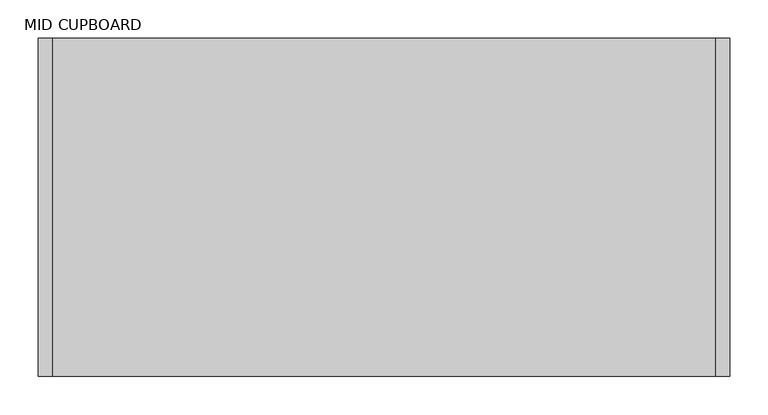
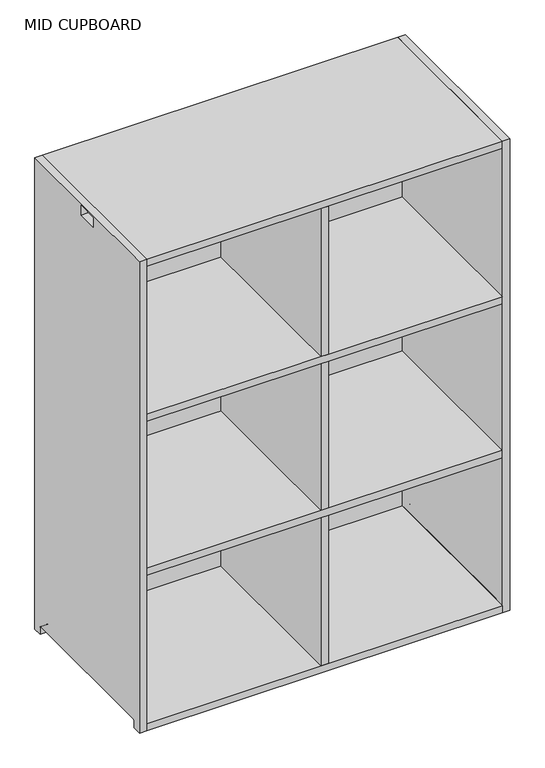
"""IFC4 building model written with IfcOpenShell, lengths in millimetres: furniture geometry, MID CUPBOARD : 900mmW_SHELVES & DIVIDER."""

from ifc_helpers import new_model, si_unit, point, frame, frame_2d, origin, place, context, project, spatial, polyline, circle_curve, trimmed, segment, composite_curve, outline, extrude, source, transform, mapped, element, save
from ifc_brep_helpers import plane_surface, revolved_surface, advanced_brep


def mid_cupboard_57cd88e8(model_context):
    return source(origin(), model_context, "Body", "SolidModel", [
        extrude(outline(composite_curve([segment(polyline([(-220.0, 1210.0), (220.0, 1210.0), (220.0, 0.0), (198.0, 0.0), (198.0, 17.0)]), True, "CONTINUOUS"), segment(trimmed(circle_curve(frame_2d((194.0, 17.0)), 4.0), [point((198.0, 17.0))], [point((194.0, 21.0))], True, "CARTESIAN"), True, "CONTINUOUS"), segment(polyline([(194.0, 21.0), (-194.0, 21.0)]), True, "CONTINUOUS"), segment(trimmed(circle_curve(frame_2d((-194.0, 17.0)), 4.0), [point((-194.0, 21.0))], [point((-198.0, 17.0))], True, "CARTESIAN"), True, "CONTINUOUS"), segment(polyline([(-198.0, 17.0), (-198.0, 0.0), (-220.0, 0.0), (-220.0, 1210.0)]), True, "CONTINUOUS")], self_intersect=False), holes=[polyline([(-26.0, 1205.0), (-26.0, 1180.0), (26.0, 1180.0), (26.0, 1205.0), (-26.0, 1205.0)])]), frame((-450.0, 0.0, 0.0), z_axis=(1.0, 0.0, 0.0), x_axis=(0.0, 1.0, 0.0)), (0.0, 0.0, 1.0), 18.0),
        advanced_brep(
        [(432.0, 220.0, 18.0), (-432.0, 220.0, 18.0), (-432.0, 197.8729833, 18.0), (-426.1019215, 197.8729833, 18.0), (-426.1019215, -197.8729833, 18.0), (-432.0, -197.8729833, 18.0), (-432.0, -220.0, 18.0), (432.0, -220.0, 18.0), (432.0, 220.0, 0.0), (432.0, -220.0, 0.0), (-432.0, -220.0, 0.0), (-432.0, -198.0, 0.0), (-426.1019215, -198.0, 0.0), (-426.1019215, 198.0, 0.0), (-432.0, 198.0, 0.0), (-432.0, 220.0, 0.0), (-432.0, 198.0, 17.0), (-432.0, -198.0, 17.0), (-426.1019215, 198.0, 17.0), (-426.1019215, -198.0, 17.0)],
        [
            (0, 1),
            (1, 2),
            (2, 3),
            (3, 4),
            (4, 5),
            (5, 6),
            (6, 7),
            (7, 0),
            (8, 9),
            (9, 10),
            (10, 11),
            (11, 12),
            (12, 13),
            (13, 14),
            (14, 15),
            (15, 8),
            (0, 8),
            (15, 1),
            (14, 16),
            (16, 2, circle_curve(frame((-432.0, 194.0, 17.0), z_axis=(1.0, 0.0, 0.0), x_axis=(0.0, 1.0, 0.0)), 4.0)),
            (10, 6),
            (5, 17, circle_curve(frame((-432.0, -194.0, 17.0), z_axis=(1.0, 0.0, 0.0), x_axis=(0.0, 1.0, 0.0)), 4.0)),
            (17, 11),
            (9, 7),
            (18, 13),
            (12, 19),
            (19, 4, circle_curve(frame((-426.1019215, -194.0, 17.0), z_axis=(-1.0, 0.0, 0.0), x_axis=(0.0, 1.0, 0.0)), 4.0)),
            (3, 18, circle_curve(frame((-426.1019215, 194.0, 17.0), z_axis=(-1.0, 0.0, 0.0), x_axis=(0.0, 1.0, 0.0)), 4.0)),
            (19, 17),
            (18, 16),
        ],
        [
            plane_surface(frame((-432.0, 220.0, 18.0), z_axis=(0.0, 0.0, 1.0), x_axis=(-1.0, 0.0, 0.0))),
            plane_surface(frame((-432.0, 220.0, 0.0), z_axis=(0.0, 0.0, -1.0), x_axis=(1.0, 0.0, 0.0))),
            plane_surface(frame((432.0, 220.0, 18.0), z_axis=(0.0, 1.0, 0.0), x_axis=(0.0, 0.0, -1.0))),
            plane_surface(frame((-432.0, 220.0, 18.0), z_axis=(-1.0, 0.0, 0.0), x_axis=(0.0, 0.0, -1.0))),
            plane_surface(frame((-432.0, -220.0, 18.0), z_axis=(0.0, -1.0, 0.0), x_axis=(0.0, 0.0, -1.0))),
            plane_surface(frame((432.0, -220.0, 18.0), z_axis=(1.0, 0.0, 0.0), x_axis=(0.0, 0.0, -1.0))),
            plane_surface(frame((-426.1019215, -190.0, 17.0), z_axis=(-1.0, 0.0, 0.0), x_axis=(0.0, 0.0, 1.0))),
            revolved_surface(polyline([(-426.1019215, -190.0, 17.0), (-432.0, -190.0, 17.0)]), (-456.0458228, -194.0, 17.0), (1.0, 0.0, 0.0)),
            plane_surface(frame((-426.1019215, -198.0, 17.0), z_axis=(0.0, 1.0, 0.0), x_axis=(-1.0, 0.0, 0.0))),
            plane_surface(frame((-426.1019215, 198.0, 0.0), z_axis=(0.0, -1.0, 0.0), x_axis=(-1.0, 0.0, 0.0))),
            revolved_surface(polyline([(-426.1019215, 198.0, 17.0), (-432.0, 198.0, 17.0)]), (-456.0458228, 194.0, 17.0), (1.0, 0.0, 0.0)),
        ],
        [
            (0, [[1, 2, 3, 4, 5, 6, 7, 8]]),
            (1, [[9, 10, 11, 12, 13, 14, 15, 16]]),
            (2, [[-1, 17, -16, 18]]),
            (3, [[-18, -15, 19, 20, -2]]),
            (3, [[21, -6, 22, 23, -11]]),
            (4, [[-7, -21, -10, 24]]),
            (5, [[-8, -24, -9, -17]]),
            (6, [[25, -13, 26, 27, -4, 28]]),
            (7, [[-27, 29, -22, -5]]),
            (8, [[-26, -12, -23, -29]]),
            (9, [[-25, 30, -19, -14]]),
            (10, [[-28, -3, -20, -30]]),
        ],
    ),
        extrude(outline(composite_curve([segment(polyline([(-220.0, 1210.0), (220.0, 1210.0), (220.0, 0.0), (198.0, 0.0), (198.0, 17.0)]), True, "CONTINUOUS"), segment(trimmed(circle_curve(frame_2d((194.0, 17.0)), 4.0), [point((198.0, 17.0))], [point((194.0, 21.0))], True, "CARTESIAN"), True, "CONTINUOUS"), segment(polyline([(194.0, 21.0), (-194.0, 21.0)]), True, "CONTINUOUS"), segment(trimmed(circle_curve(frame_2d((-194.0, 17.0)), 4.0), [point((-194.0, 21.0))], [point((-198.0, 17.0))], True, "CARTESIAN"), True, "CONTINUOUS"), segment(polyline([(-198.0, 17.0), (-198.0, 0.0), (-220.0, 0.0), (-220.0, 1210.0)]), True, "CONTINUOUS")], self_intersect=False), holes=[polyline([(-26.0, 1205.0), (-26.0, 1180.0), (26.0, 1180.0), (26.0, 1205.0), (-26.0, 1205.0)])]), frame((432.0, 0.0, 0.0), z_axis=(1.0, 0.0, 0.0), x_axis=(0.0, 1.0, 0.0)), (0.0, 0.0, 1.0), 18.0),
        extrude(outline(polyline([(432.0, 220.0), (432.0, 202.0), (-432.0, 202.0), (-432.0, 220.0), (432.0, 220.0)])), frame((0.0, 0.0, 18.0), z_axis=(0.0, 0.0, 1.0), x_axis=(1.0, 0.0, 0.0)), (0.0, 0.0, 1.0), 1174.0),
        extrude(outline(polyline([(432.0, 202.0), (432.0, -220.0), (-432.0, -220.0), (-432.0, 202.0), (432.0, 202.0)])), frame((0.0, 0.0, 398.5), z_axis=(0.0, 0.0, 1.0), x_axis=(1.0, 0.0, 0.0)), (0.0, 0.0, 1.0), 18.0),
        extrude(outline(polyline([(432.0, 202.0), (432.0, -220.0), (-432.0, -220.0), (-432.0, 202.0), (432.0, 202.0)])), frame((0.0, 0.0, 793.5), z_axis=(0.0, 0.0, 1.0), x_axis=(1.0, 0.0, 0.0)), (0.0, 0.0, 1.0), 18.0),
        extrude(outline(polyline([(432.0, 220.0), (432.0, -220.0), (-432.0, -220.0), (-432.0, 220.0), (432.0, 220.0)])), frame((0.0, 0.0, 1192.0), z_axis=(0.0, 0.0, 1.0), x_axis=(1.0, 0.0, 0.0)), (0.0, 0.0, 1.0), 18.0),
        extrude(outline(polyline([(9.0, 202.0), (9.0, -220.0), (-9.0, -220.0), (-9.0, 202.0), (9.0, 202.0)])), frame((0.0, 0.0, 18.0), z_axis=(0.0, 0.0, 1.0), x_axis=(1.0, 0.0, 0.0)), (0.0, 0.0, 1.0), 1174.0),
    ])


if __name__ == "__main__":
    model = new_model("IFC4")
    model_context = context("Model", 3, world=origin())
    ifc_project = project(units=[si_unit("LENGTHUNIT", "METRE", prefix="MILLI")], contexts=[model_context])
    site = spatial("IfcSite", under=ifc_project)
    building = spatial("IfcBuilding", under=site)
    placement = place(None, origin())
    mid_cupboard_shape = mid_cupboard_57cd88e8(model_context)
    element("IfcFurniture", 1, ObjectType="MID CUPBOARD : 900mmW_SHELVES & DIVIDER", at=placement, inside=building, context=model_context, shape_type="MappedRepresentation", body=[
        mapped(mid_cupboard_shape, transform((0.0, 0.0, 0.0), x_axis=(1.0, 0.0, 0.0), y_axis=(0.0, 1.0, 0.0), z_axis=(0.0, 0.0, 1.0))),
    ])
    save(model, "model.ifc")
